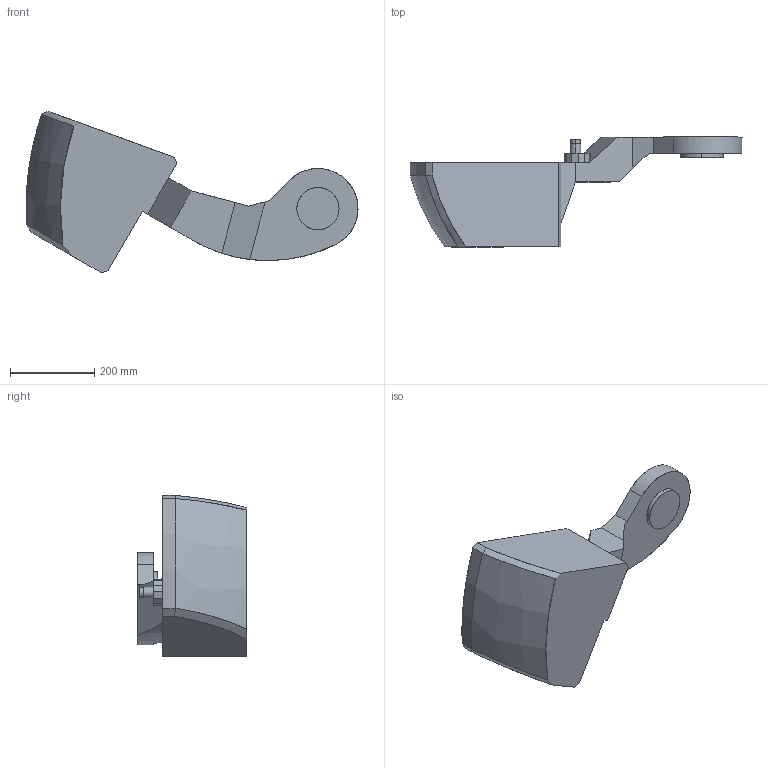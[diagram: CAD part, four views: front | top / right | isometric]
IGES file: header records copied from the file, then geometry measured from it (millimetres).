
Start section: SolidWorks IGES file using analytic representation for surfaces
Global section: file name: C:\Users\sefaane2\Downloads\Sparad modell IRB4400 10\Final SolidWorks CADSIM models and .txt file\Macro\Macro_IRC5_IGES_j\IRB4400_L10-253_IRC5_rev03_LINKARM_CAD.IGS; native system: SolidWorks 2014; preprocessor: SolidWorks 2014; author: SEFAANE2; date: 161103.132442; units: millimetre
Bounding box: 786.97 x 260.5 x 382.41 mm (x, y, z)
Surface area: 582243.3 mm2 (no closed solid volume)
Topology: 0 solids, 0 shells, 50 faces, 625 edges, 625 vertices
Faces by surface type: bspline 40, revolution 10
